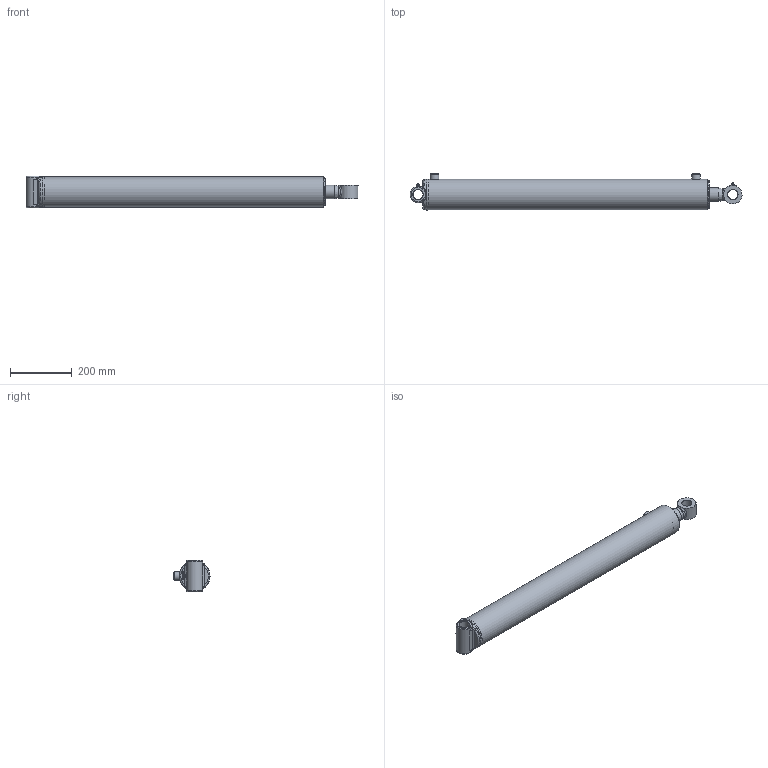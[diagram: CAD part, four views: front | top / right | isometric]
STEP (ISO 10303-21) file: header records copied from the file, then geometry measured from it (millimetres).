
FILE_DESCRIPTION(/* description */ ('Ø3.50 X 32.00 DA'),/* implementation_level */ '2;1');
FILE_NAME(/* name */ 'result.stp',/* time_stamp */ '2023-11-16T16:18:44Z',/* author */ ('AJC'),/* organization */ ('PRINCE MANUFACTURING'),/* preprocessor_version */ 'ST-DEVELOPER v20',/* originating_system */ 'Autodesk Inventor 2024',/* authorisation */ '');
FILE_SCHEMA (('AUTOMOTIVE_DESIGN { 1 0 10303 214 3 1 1 }'));
Length unit declared in the file: inch
Products named in the file (21): PC3532017A00-400XYXA; 0617-XYSF000-35570; 0517-T-35570; 161700179; 200015603; 06Weld1_C360; 0717-P-100; 220000210; 0817-G-175; 230025105; 230025005; 240000022; 240061338; 240000338; 0210A-HAW5-37687XA; 0110A-HAW5-37687; 210600529; 02Weld_C360; 240020007; 250014175; 270010020
Assembly tree (22 placements, depth 3):
  PC3532017A00-400XYXA
    0617-XYSF000-35570
      0517-T-35570
      161700179
      200015603  x2
      06Weld1_C360
    0717-P-100
    220000210
    0817-G-175
    230025105
    230025005
    240000022
    240061338
    240000338
    0210A-HAW5-37687XA
      0110A-HAW5-37687
      210600529
      02Weld_C360
    240020007
    250014175
    270010020  x2
Bounding box: 1071.52 x 116.74 x 101.6 mm (x, y, z)
Volume: 3378095 mm3; surface area: 854851.4 mm2
Topology: 26 solids, 26 shells, 536 faces, 1281 edges, 823 vertices
Faces by surface type: plane 144, bspline 128, torus 89, cylinder 87, cone 84, sphere 4
Full cylindrical faces by diameter (mm): 2.143 x4, 3.175 x1, 5.359 x2, 6.35 x2, 9.525 x2, 12.649 x1, 12.7 x1, 12.725 x1, 17.323 x2, 23.444 x1, 25.349 x1, 25.476 x1, 27.965 x1, 28.575 x2, 32.131 x2, 44.45 x1, 44.526 x2, 45.644 x2, 46.482 x1, 46.838 x1, 51.613 x1, 52.807 x1, 54 x1, 55.626 x2, 57.15 x2, 61.976 x1, 69.85 x2, 79.477 x2, 80.213 x2, 83.82 x1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
Entity records: 29468 total; most frequent: CARTESIAN_POINT 17326, ORIENTED_EDGE 2352, DIRECTION 2142, EDGE_CURVE 1176, AXIS2_PLACEMENT_3D 908, VERTEX_POINT 762, EDGE_LOOP 572, FACE_OUTER_BOUND 492
